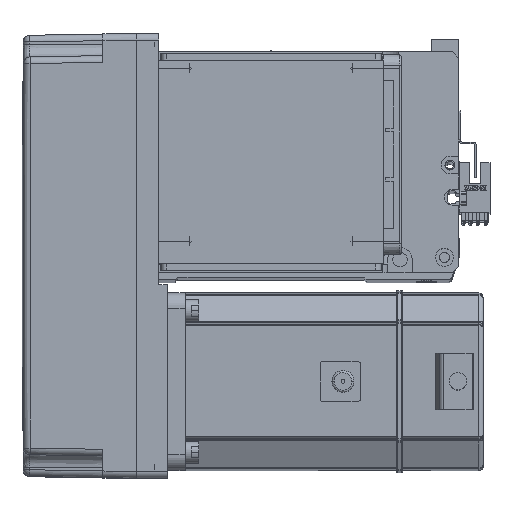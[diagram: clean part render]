
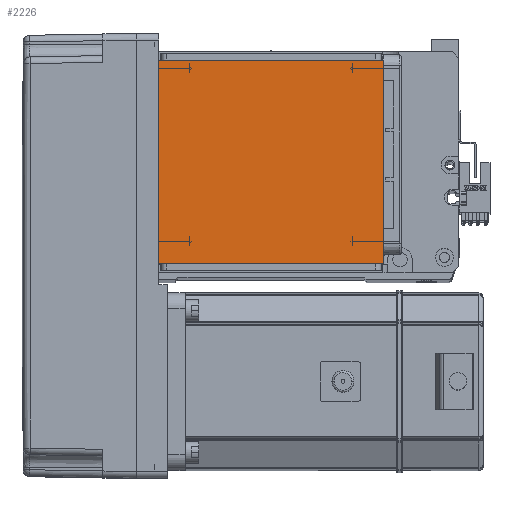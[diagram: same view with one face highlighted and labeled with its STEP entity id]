
A CAD part, top view. The second image highlights one B-rep face of the part: STEP entity #2226.
In plain terms, the highlighted planar face has unit normal (0, 0, 1).
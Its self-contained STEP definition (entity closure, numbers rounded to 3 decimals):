
#318 = AXIS2_PLACEMENT_3D ( 'NONE', #8756, #21349, #8168 ) ;
#2226 = ADVANCED_FACE ( 'NONE', ( #34541 ), #17460, .T. ) ;
#2346 = DIRECTION ( 'NONE',  ( 0., 1., 0. ) ) ;
#2392 = ORIENTED_EDGE ( 'NONE', *, *, #29046, .T. ) ;
#2550 = EDGE_CURVE ( 'NONE', #42396, #15873, #7507, .T. ) ;
#6596 = EDGE_LOOP ( 'NONE', ( #48685, #2392, #16598, #53819 ) ) ;
#7507 = LINE ( 'NONE', #15664, #19295 ) ;
#8168 = DIRECTION ( 'NONE',  ( 1., 0., 0. ) ) ;
#8756 = CARTESIAN_POINT ( 'NONE',  ( 0., 0., 115. ) ) ;
#9888 = VERTEX_POINT ( 'NONE', #26672 ) ;
#10022 = EDGE_CURVE ( 'NONE', #9888, #15873, #40427, .T. ) ;
#12709 = VECTOR ( 'NONE', #50954, 1000. ) ;
#15664 = CARTESIAN_POINT ( 'NONE',  ( 50.5, 122., 115. ) ) ;
#15873 = VERTEX_POINT ( 'NONE', #24843 ) ;
#16598 = ORIENTED_EDGE ( 'NONE', *, *, #48850, .F. ) ;
#17460 = PLANE ( 'NONE',  #318 ) ;
#19295 = VECTOR ( 'NONE', #2346, 1000. ) ;
#21349 = DIRECTION ( 'NONE',  ( 0., 0., 1. ) ) ;
#23126 = LINE ( 'NONE', #46198, #45246 ) ;
#24843 = CARTESIAN_POINT ( 'NONE',  ( 50.5, 111.5, 115. ) ) ;
#26672 = CARTESIAN_POINT ( 'NONE',  ( -50.5, 111.5, 115. ) ) ;
#29046 = EDGE_CURVE ( 'NONE', #9888, #38259, #23126, .T. ) ;
#31075 = CARTESIAN_POINT ( 'NONE',  ( -70.004, 20., 115. ) ) ;
#31687 = VECTOR ( 'NONE', #47860, 1000. ) ;
#33754 = LINE ( 'NONE', #31075, #31687 ) ;
#34541 = FACE_OUTER_BOUND ( 'NONE', #6596, .T. ) ;
#37138 = DIRECTION ( 'NONE',  ( 0., -1., 0. ) ) ;
#38259 = VERTEX_POINT ( 'NONE', #45538 ) ;
#40427 = LINE ( 'NONE', #45938, #12709 ) ;
#42396 = VERTEX_POINT ( 'NONE', #56452 ) ;
#45246 = VECTOR ( 'NONE', #37138, 1000. ) ;
#45538 = CARTESIAN_POINT ( 'NONE',  ( -50.5, 20., 115. ) ) ;
#45938 = CARTESIAN_POINT ( 'NONE',  ( -70.004, 111.5, 115. ) ) ;
#46198 = CARTESIAN_POINT ( 'NONE',  ( -50.5, 122., 115. ) ) ;
#47860 = DIRECTION ( 'NONE',  ( -1., 0., 0. ) ) ;
#48685 = ORIENTED_EDGE ( 'NONE', *, *, #10022, .F. ) ;
#48850 = EDGE_CURVE ( 'NONE', #42396, #38259, #33754, .T. ) ;
#50954 = DIRECTION ( 'NONE',  ( 1., 0., 0. ) ) ;
#53819 = ORIENTED_EDGE ( 'NONE', *, *, #2550, .T. ) ;
#56452 = CARTESIAN_POINT ( 'NONE',  ( 50.5, 20., 115. ) ) ;
